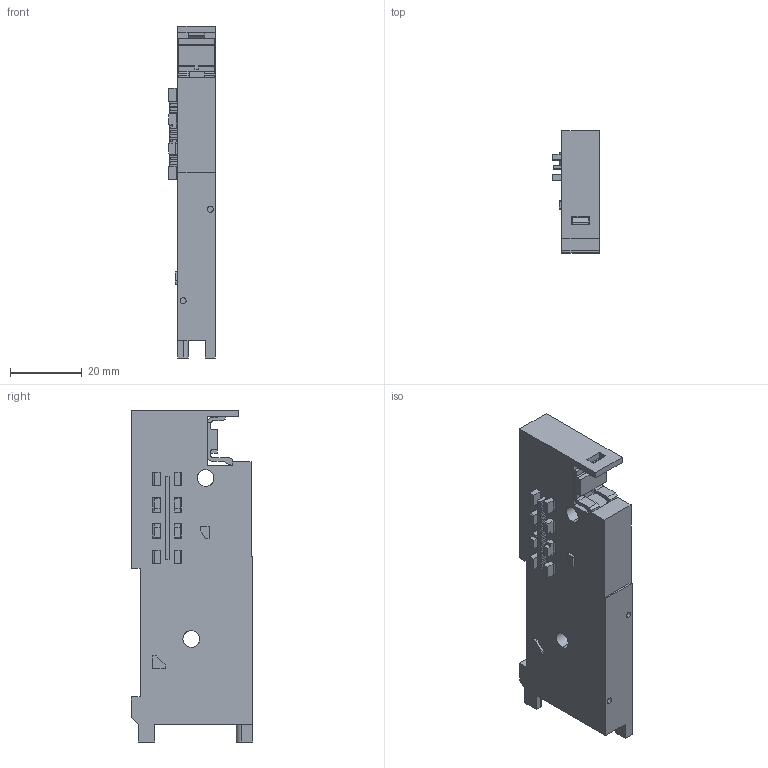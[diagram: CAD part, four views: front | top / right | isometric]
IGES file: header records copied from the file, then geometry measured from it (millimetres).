
Start section: ------------------------------------------------------------------------
Global section: file name: D:\ICADMX\tmp\trans3d_spg\CVICAD02.6860.F10ZX_ValveBaseAssy_8530.igs; native system: spGate; preprocessor: ver12.6.6; author: Unknown; organization: Unknown; date: 200901.142417; units: millimetre
Bounding box: 13.1 x 34 x 92.8 mm (x, y, z)
Volume: 28326.5 mm3; surface area: 9695.2 mm2
Topology: 1 solids, 1 shells, 324 faces, 966 edges, 735 vertices
Faces by surface type: bspline 324
